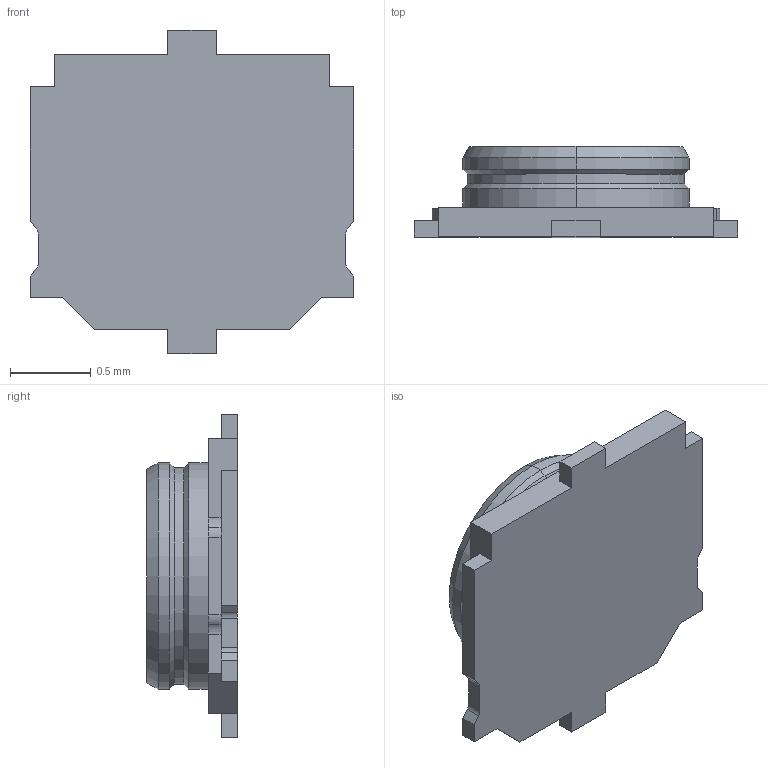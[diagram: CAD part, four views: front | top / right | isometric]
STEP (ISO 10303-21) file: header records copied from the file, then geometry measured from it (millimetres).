
FILE_DESCRIPTION (( 'STEP AP203' ), '1' );
FILE_NAME ('20566-001E-01C RECE ASS''Y STEP R6 ALL.STEP', '2018-04-25T08:00:37', ( '' ), ( '' ), 'SwSTEP 2.0', 'SolidWorks 2017', '' );
FILE_SCHEMA (( 'CONFIG_CONTROL_DESIGN' ));
Length unit declared in the file: millimetre
Products named in the file (1): 20566-001E-01C RECE ASS''Y STEP R6 ALL
Bounding box: 2 x 0.56 x 2 mm (x, y, z)
Volume: 0.7 mm3; surface area: 11.1 mm2
Topology: 1 solids, 1 shells, 70 faces, 185 edges, 116 vertices
Faces by surface type: plane 38, cylinder 22, cone 8, bspline 2
Entity records: 2221 total; most frequent: CARTESIAN_POINT 398, DIRECTION 368, ORIENTED_EDGE 362, EDGE_CURVE 181, VECTOR 132, LINE 132, AXIS2_PLACEMENT_3D 118, VERTEX_POINT 116
